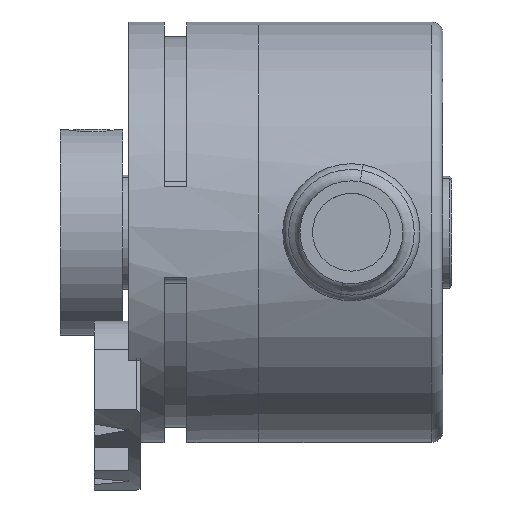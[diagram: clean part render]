
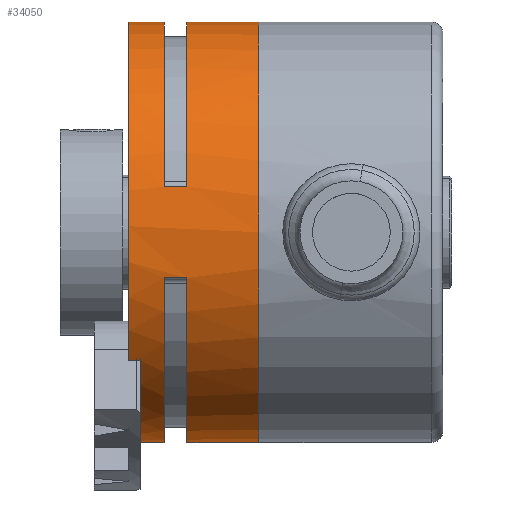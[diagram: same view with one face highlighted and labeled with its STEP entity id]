
A CAD part, front view. The second image highlights one B-rep face of the part: STEP entity #34050.
In plain terms, the highlighted cylindrical face has radius 18.4 mm (diameter 36.8 mm), a partial arc.
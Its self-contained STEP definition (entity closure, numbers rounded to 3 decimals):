
#157 = VERTEX_POINT ( 'NONE', #35088 ) ;
#164 = EDGE_CURVE ( 'NONE', #310, #157, #35112, .T. ) ;
#203 = VERTEX_POINT ( 'NONE', #763 ) ;
#287 = EDGE_CURVE ( 'NONE', #322, #308, #1066, .T. ) ;
#308 = VERTEX_POINT ( 'NONE', #1085 ) ;
#310 = VERTEX_POINT ( 'NONE', #1084 ) ;
#322 = VERTEX_POINT ( 'NONE', #1135 ) ;
#328 = VERTEX_POINT ( 'NONE', #1178 ) ;
#763 = CARTESIAN_POINT ( 'NONE',  ( 92.56, -17.498, 18.4 ) ) ;
#1063 = DIRECTION ( 'NONE',  ( -1., 0., 0. ) ) ;
#1064 = VECTOR ( 'NONE', #1063, 1000. ) ;
#1065 = CARTESIAN_POINT ( 'NONE',  ( 76.76, -17.498, -18.4 ) ) ;
#1066 = LINE ( 'NONE', #1065, #1064 ) ;
#1084 = CARTESIAN_POINT ( 'NONE',  ( 84.26, -17.498, -18.4 ) ) ;
#1085 = CARTESIAN_POINT ( 'NONE',  ( 86.26, -17.498, -18.4 ) ) ;
#1135 = CARTESIAN_POINT ( 'NONE',  ( 92.56, -17.498, -18.4 ) ) ;
#1178 = CARTESIAN_POINT ( 'NONE',  ( 81.16, -17.498, 18.4 ) ) ;
#2976 = DIRECTION ( 'NONE',  ( 0., 0., 1. ) ) ;
#2977 = DIRECTION ( 'NONE',  ( -1., 0., 0. ) ) ;
#2978 = CARTESIAN_POINT ( 'NONE',  ( 81.16, -17.498, 0. ) ) ;
#2979 = AXIS2_PLACEMENT_3D ( 'NONE', #2978, #2977, #2976 ) ;
#2980 = CIRCLE ( 'NONE', #2979, 18.4 ) ;
#2987 = DIRECTION ( 'NONE',  ( -1., 0., 0. ) ) ;
#2988 = VECTOR ( 'NONE', #2987, 1000. ) ;
#2989 = CARTESIAN_POINT ( 'NONE',  ( 82.16, -32.069, -11.237 ) ) ;
#2990 = LINE ( 'NONE', #2989, #2988 ) ;
#3007 = CARTESIAN_POINT ( 'NONE',  ( 81.16, -32.069, -11.237 ) ) ;
#3008 = DIRECTION ( 'NONE',  ( 0., 0., 1. ) ) ;
#3009 = DIRECTION ( 'NONE',  ( -1., 0., 0. ) ) ;
#3010 = CARTESIAN_POINT ( 'NONE',  ( 82.16, -17.498, 0. ) ) ;
#3011 = AXIS2_PLACEMENT_3D ( 'NONE', #3010, #3009, #3008 ) ;
#3012 = CIRCLE ( 'NONE', #3011, 18.4 ) ;
#3017 = CARTESIAN_POINT ( 'NONE',  ( 82.16, -32.069, -11.237 ) ) ;
#3022 = CARTESIAN_POINT ( 'NONE',  ( 82.16, -19.944, -18.237 ) ) ;
#3080 = DIRECTION ( 'NONE',  ( -1., 0., 0. ) ) ;
#3081 = VECTOR ( 'NONE', #3080, 1000. ) ;
#3082 = CARTESIAN_POINT ( 'NONE',  ( 82.16, -19.944, -18.237 ) ) ;
#3088 = LINE ( 'NONE', #3082, #3081 ) ;
#3147 = CARTESIAN_POINT ( 'NONE',  ( 81.16, -19.944, -18.237 ) ) ;
#3154 = DIRECTION ( 'NONE',  ( 0., 0., 1. ) ) ;
#3155 = DIRECTION ( 'NONE',  ( -1., 0., 0. ) ) ;
#3156 = CARTESIAN_POINT ( 'NONE',  ( 81.16, -17.498, 0. ) ) ;
#3157 = AXIS2_PLACEMENT_3D ( 'NONE', #3156, #3155, #3154 ) ;
#3158 = CIRCLE ( 'NONE', #3157, 18.4 ) ;
#4100 = ORIENTED_EDGE ( 'NONE', *, *, #4399, .F. ) ;
#4191 = EDGE_CURVE ( 'NONE', #4332, #328, #2980, .T. ) ;
#4209 = ORIENTED_EDGE ( 'NONE', *, *, #4722, .T. ) ;
#4330 = EDGE_CURVE ( 'NONE', #4442, #4445, #3012, .T. ) ;
#4332 = VERTEX_POINT ( 'NONE', #3007 ) ;
#4399 = EDGE_CURVE ( 'NONE', #4445, #4332, #2990, .T. ) ;
#4442 = VERTEX_POINT ( 'NONE', #3022 ) ;
#4445 = VERTEX_POINT ( 'NONE', #3017 ) ;
#4478 = ORIENTED_EDGE ( 'NONE', *, *, #4330, .F. ) ;
#4722 = EDGE_CURVE ( 'NONE', #4442, #4933, #3088, .T. ) ;
#4749 = ORIENTED_EDGE ( 'NONE', *, *, #164, .F. ) ;
#4821 = ORIENTED_EDGE ( 'NONE', *, *, #4832, .F. ) ;
#4832 = EDGE_CURVE ( 'NONE', #157, #4933, #3158, .T. ) ;
#4933 = VERTEX_POINT ( 'NONE', #3147 ) ;
#9179 = CARTESIAN_POINT ( 'NONE',  ( 84.26, -35.458, -4. ) ) ;
#12371 = DIRECTION ( 'NONE',  ( 0., 0., -1. ) ) ;
#12372 = DIRECTION ( 'NONE',  ( 1., 0., 0. ) ) ;
#12373 = CARTESIAN_POINT ( 'NONE',  ( 84.26, -17.498, 0. ) ) ;
#12374 = AXIS2_PLACEMENT_3D ( 'NONE', #12373, #12372, #12371 ) ;
#12375 = CIRCLE ( 'NONE', #12374, 18.4 ) ;
#13206 = DIRECTION ( 'NONE',  ( -1., 0., 0. ) ) ;
#13207 = VECTOR ( 'NONE', #13206, 1000. ) ;
#13208 = CARTESIAN_POINT ( 'NONE',  ( 86.26, -35.458, -4. ) ) ;
#13209 = LINE ( 'NONE', #13208, #13207 ) ;
#13210 = CARTESIAN_POINT ( 'NONE',  ( 86.26, -35.458, -4. ) ) ;
#13275 = DIRECTION ( 'NONE',  ( 0., 0., -1. ) ) ;
#13276 = DIRECTION ( 'NONE',  ( 1., 0., 0. ) ) ;
#13277 = CARTESIAN_POINT ( 'NONE',  ( 86.26, -17.498, 0. ) ) ;
#13278 = AXIS2_PLACEMENT_3D ( 'NONE', #13277, #13276, #13275 ) ;
#13279 = CIRCLE ( 'NONE', #13278, 18.4 ) ;
#20513 = CIRCLE ( 'NONE', #20519, 18.4 ) ;
#20515 = DIRECTION ( 'NONE',  ( 0., 0., 1. ) ) ;
#20516 = DIRECTION ( 'NONE',  ( -1., 0., 0. ) ) ;
#20517 = AXIS2_PLACEMENT_3D ( 'NONE', #20520, #20516, #20515 ) ;
#20518 = CYLINDRICAL_SURFACE ( 'NONE', #20517, 18.4 ) ;
#20519 = AXIS2_PLACEMENT_3D ( 'NONE', #20573, #20572, #20571 ) ;
#20520 = CARTESIAN_POINT ( 'NONE',  ( 76.76, -17.498, 0. ) ) ;
#20537 = FACE_OUTER_BOUND ( 'NONE', #34051, .T. ) ;
#20571 = DIRECTION ( 'NONE',  ( 0., 0., 1. ) ) ;
#20572 = DIRECTION ( 'NONE',  ( -1., 0., 0. ) ) ;
#20573 = CARTESIAN_POINT ( 'NONE',  ( 92.56, -17.498, 0. ) ) ;
#20603 = AXIS2_PLACEMENT_3D ( 'NONE', #20660, #20659, #20658 ) ;
#20604 = CIRCLE ( 'NONE', #20603, 18.4 ) ;
#20606 = DIRECTION ( 'NONE',  ( 0., 0., -1. ) ) ;
#20607 = DIRECTION ( 'NONE',  ( 1., 0., 0. ) ) ;
#20608 = AXIS2_PLACEMENT_3D ( 'NONE', #20614, #20607, #20606 ) ;
#20609 = CIRCLE ( 'NONE', #20608, 18.4 ) ;
#20614 = CARTESIAN_POINT ( 'NONE',  ( 84.26, -17.498, 0. ) ) ;
#20658 = DIRECTION ( 'NONE',  ( 0., 0., -1. ) ) ;
#20659 = DIRECTION ( 'NONE',  ( 1., 0., 0. ) ) ;
#20660 = CARTESIAN_POINT ( 'NONE',  ( 86.26, -17.498, 0. ) ) ;
#20708 = DIRECTION ( 'NONE',  ( -1., 0., 0. ) ) ;
#20709 = VECTOR ( 'NONE', #20708, 1000. ) ;
#20710 = CARTESIAN_POINT ( 'NONE',  ( 86.26, -35.458, 4. ) ) ;
#20711 = LINE ( 'NONE', #20710, #20709 ) ;
#20712 = CARTESIAN_POINT ( 'NONE',  ( 86.26, -35.458, 4. ) ) ;
#20897 = CARTESIAN_POINT ( 'NONE',  ( 84.26, -35.458, 4. ) ) ;
#24752 = DIRECTION ( 'NONE',  ( -1., 0., 0. ) ) ;
#24753 = VECTOR ( 'NONE', #24752, 1000. ) ;
#24754 = CARTESIAN_POINT ( 'NONE',  ( 76.76, -17.498, 18.4 ) ) ;
#24755 = LINE ( 'NONE', #24754, #24753 ) ;
#25172 = CARTESIAN_POINT ( 'NONE',  ( 86.26, -17.498, 18.4 ) ) ;
#25192 = CARTESIAN_POINT ( 'NONE',  ( 84.26, -17.498, 18.4 ) ) ;
#25246 = DIRECTION ( 'NONE',  ( -1., 0., 0. ) ) ;
#25247 = VECTOR ( 'NONE', #25246, 1000. ) ;
#25248 = CARTESIAN_POINT ( 'NONE',  ( 76.76, -17.498, 18.4 ) ) ;
#25249 = LINE ( 'NONE', #25248, #25247 ) ;
#29047 = VERTEX_POINT ( 'NONE', #9179 ) ;
#29419 = ORIENTED_EDGE ( 'NONE', *, *, #30535, .F. ) ;
#30535 = EDGE_CURVE ( 'NONE', #29047, #310, #12375, .T. ) ;
#30621 = ORIENTED_EDGE ( 'NONE', *, *, #31053, .F. ) ;
#31051 = VERTEX_POINT ( 'NONE', #13210 ) ;
#31053 = EDGE_CURVE ( 'NONE', #31051, #29047, #13209, .T. ) ;
#31075 = EDGE_CURVE ( 'NONE', #31051, #308, #13279, .T. ) ;
#31085 = ORIENTED_EDGE ( 'NONE', *, *, #31075, .T. ) ;
#34006 = ORIENTED_EDGE ( 'NONE', *, *, #34075, .F. ) ;
#34047 = ORIENTED_EDGE ( 'NONE', *, *, #34055, .T. ) ;
#34050 = ADVANCED_FACE ( 'NONE', ( #20537 ), #20518, .T. ) ;
#34051 = EDGE_LOOP ( 'NONE', ( #34052, #34047, #34078, #34092, #34096, #34006, #34172, #34220, #4100, #4478, #4209, #4821, #4749, #29419, #30621, #31085 ) ) ;
#34052 = ORIENTED_EDGE ( 'NONE', *, *, #287, .F. ) ;
#34055 = EDGE_CURVE ( 'NONE', #322, #203, #20513, .T. ) ;
#34075 = EDGE_CURVE ( 'NONE', #35972, #34160, #20609, .T. ) ;
#34078 = ORIENTED_EDGE ( 'NONE', *, *, #35814, .T. ) ;
#34079 = EDGE_CURVE ( 'NONE', #35980, #34095, #20604, .T. ) ;
#34092 = ORIENTED_EDGE ( 'NONE', *, *, #34079, .T. ) ;
#34095 = VERTEX_POINT ( 'NONE', #20712 ) ;
#34096 = ORIENTED_EDGE ( 'NONE', *, *, #34097, .T. ) ;
#34097 = EDGE_CURVE ( 'NONE', #34095, #34160, #20711, .T. ) ;
#34160 = VERTEX_POINT ( 'NONE', #20897 ) ;
#34172 = ORIENTED_EDGE ( 'NONE', *, *, #35993, .T. ) ;
#34220 = ORIENTED_EDGE ( 'NONE', *, *, #4191, .F. ) ;
#35088 = CARTESIAN_POINT ( 'NONE',  ( 81.16, -17.498, -18.4 ) ) ;
#35105 = DIRECTION ( 'NONE',  ( -1., 0., 0. ) ) ;
#35106 = VECTOR ( 'NONE', #35105, 1000. ) ;
#35107 = CARTESIAN_POINT ( 'NONE',  ( 76.76, -17.498, -18.4 ) ) ;
#35112 = LINE ( 'NONE', #35107, #35106 ) ;
#35814 = EDGE_CURVE ( 'NONE', #203, #35980, #24755, .T. ) ;
#35972 = VERTEX_POINT ( 'NONE', #25192 ) ;
#35980 = VERTEX_POINT ( 'NONE', #25172 ) ;
#35993 = EDGE_CURVE ( 'NONE', #35972, #328, #25249, .T. ) ;
